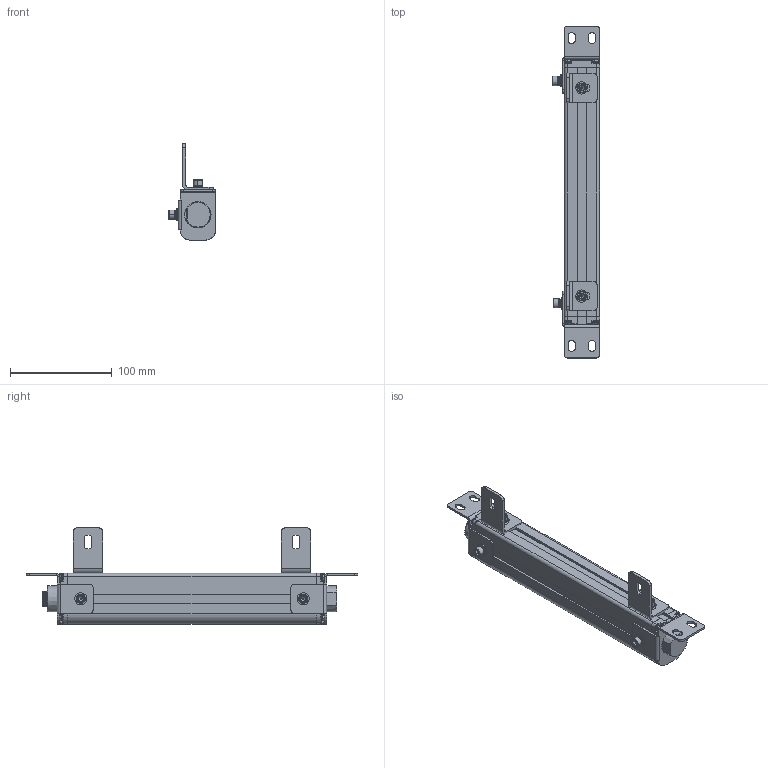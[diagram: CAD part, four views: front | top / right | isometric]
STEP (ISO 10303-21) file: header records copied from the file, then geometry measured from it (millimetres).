
FILE_DESCRIPTION((''),'2;1');
FILE_NAME('ESN--000_ASM','2021-08-11T15:52:33',('18720616900'),(''),'CREO PARAMETRIC BY PTC INC, 2019010','CREO PARAMETRIC BY PTC INC, 2019010','');
FILE_SCHEMA(('CONFIG_CONTROL_DESIGN'));
Length unit declared in the file: millimetre
Products named in the file (22): 00; 000; _0001; 4000; 4--0001; ESN_40001_ASM; L10001; M6-8--0001; M6-1--00; M6-1-00; M6-80001_ASM; L1--0001_ASM; _0002; 0005; ST-3-120001; H1--000; H1--0001_ASM; H1--0003_ASM; ESN--000_ASM
Assembly tree (34 placements, depth 4):
  ESN--000_ASM
    00
    000
    _0001
    000
    ESN_40001_ASM
      4000
      4--0001  x4
    L1--0001_ASM  x2
      L10001
      M6-80001_ASM
        M6-8--0001
        M6-1--00
        M6-1-00
        00
    _0002
    0005
    ST-3-120001  x8
    H1--0001_ASM
      H1--000
      M6-80001_ASM
        M6-8--0001
        M6-1--00
        M6-1-00
        00
    H1--0003_ASM
      H1--000
      M6-80001_ASM
        M6-8--0001
        M6-1--00
        M6-1-00
        00
Bounding box: 46.5 x 327 x 94.95 mm (x, y, z)
Volume: 431176.2 mm3; surface area: 119068.2 mm2
Topology: 39 solids, 39 shells, 1727 faces, 4555 edges, 2925 vertices
Faces by surface type: plane 541, cylinder 404, bspline 362, cone 291, torus 105, sphere 24
Entity records: 45714 total; most frequent: CARTESIAN_POINT 24222, ORIENTED_EDGE 4766, DIRECTION 3842, EDGE_CURVE 2383, VERTEX_POINT 1546, AXIS2_PLACEMENT_3D 1400, VECTOR 1042, LINE 1042
